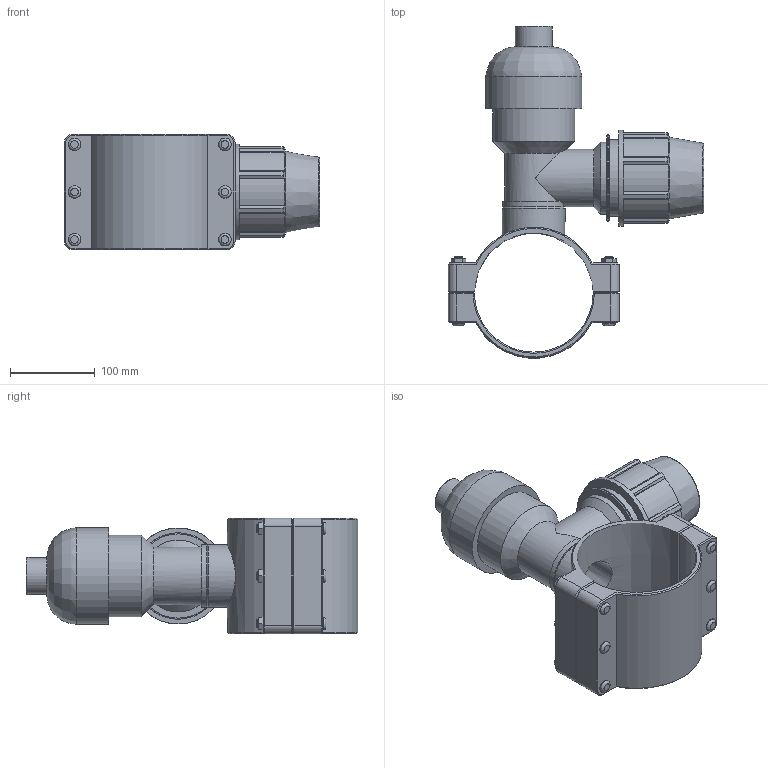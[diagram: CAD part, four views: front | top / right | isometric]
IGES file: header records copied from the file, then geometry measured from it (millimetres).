
Global section: file name: 186800140063.ipt; native system: Autodesk Inventor 2015; preprocessor: unknown; author: KIM; date: 20170618.094034; units: millimetre
Bounding box: 300.5 x 390.73 x 136 mm (x, y, z)
Volume: 2614741.7 mm3; surface area: 367348.2 mm2
Topology: 1 solids, 1 shells, 255 faces, 633 edges, 409 vertices
Faces by surface type: plane 154, cylinder 50, cone 31, revolution 20
Full cylindrical faces by diameter (mm): 10 x6, 15 x12, 43.598 x1, 56.656 x1, 67.8 x1, 73.653 x2, 84.75 x1, 90.4 x1, 96.315 x1, 101.7 x1, 113 x1, 113.312 x1
